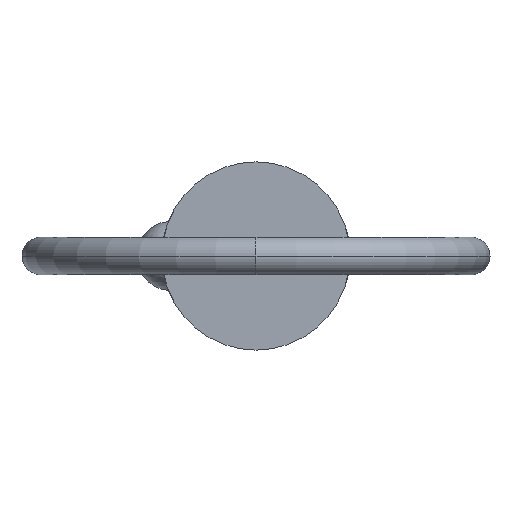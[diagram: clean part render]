
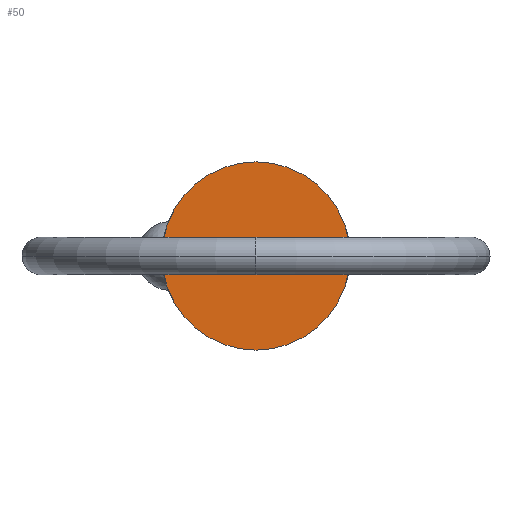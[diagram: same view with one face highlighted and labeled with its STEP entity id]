
A CAD part, left-side view. The second image highlights one B-rep face of the part: STEP entity #50.
In plain terms, the highlighted planar face has unit normal (-1, 0, 0).
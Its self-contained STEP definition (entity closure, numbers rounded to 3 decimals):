
#50 = ADVANCED_FACE ( 'NONE', ( #386 ), #63, .T. ) ;
#55 = DIRECTION ( 'NONE',  ( 1., 0., 0. ) ) ;
#63 = PLANE ( 'NONE',  #237 ) ;
#65 = AXIS2_PLACEMENT_3D ( 'NONE', #657, #55, #335 ) ;
#69 = CARTESIAN_POINT ( 'NONE',  ( 0., 0., 0. ) ) ;
#70 = EDGE_CURVE ( 'NONE', #648, #708, #491, .T. ) ;
#189 = DIRECTION ( 'NONE',  ( 1., 0., 0. ) ) ;
#204 = EDGE_LOOP ( 'NONE', ( #582, #541 ) ) ;
#237 = AXIS2_PLACEMENT_3D ( 'NONE', #69, #456, #597 ) ;
#326 = DIRECTION ( 'NONE',  ( 0., 0., -1. ) ) ;
#335 = DIRECTION ( 'NONE',  ( 0., 0., -1. ) ) ;
#363 = CARTESIAN_POINT ( 'NONE',  ( 0., 0., 5.555 ) ) ;
#386 = FACE_OUTER_BOUND ( 'NONE', #204, .T. ) ;
#453 = AXIS2_PLACEMENT_3D ( 'NONE', #784, #189, #326 ) ;
#456 = DIRECTION ( 'NONE',  ( -1., 0., 0. ) ) ;
#491 = CIRCLE ( 'NONE', #65, 5.555 ) ;
#541 = ORIENTED_EDGE ( 'NONE', *, *, #859, .F. ) ;
#550 = CARTESIAN_POINT ( 'NONE',  ( 0., 0., -5.555 ) ) ;
#582 = ORIENTED_EDGE ( 'NONE', *, *, #70, .F. ) ;
#597 = DIRECTION ( 'NONE',  ( 0., 0., 1. ) ) ;
#599 = CIRCLE ( 'NONE', #453, 5.555 ) ;
#648 = VERTEX_POINT ( 'NONE', #550 ) ;
#657 = CARTESIAN_POINT ( 'NONE',  ( 0., 0., 0. ) ) ;
#708 = VERTEX_POINT ( 'NONE', #363 ) ;
#784 = CARTESIAN_POINT ( 'NONE',  ( 0., 0., 0. ) ) ;
#859 = EDGE_CURVE ( 'NONE', #708, #648, #599, .T. ) ;
